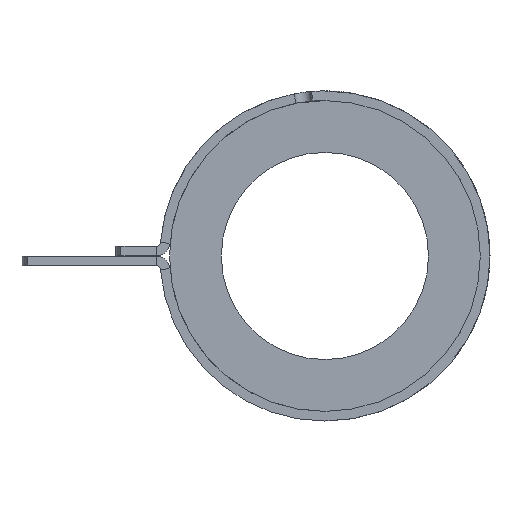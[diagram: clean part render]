
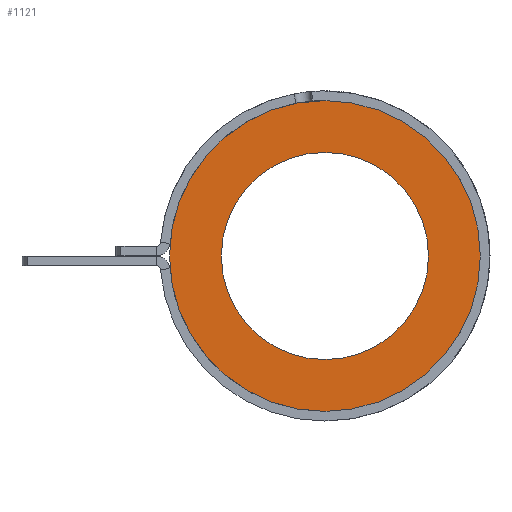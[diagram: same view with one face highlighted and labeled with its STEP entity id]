
A CAD part, left-side view. The second image highlights one B-rep face of the part: STEP entity #1121.
In plain terms, the highlighted planar face has unit normal (-1, 0, 0).
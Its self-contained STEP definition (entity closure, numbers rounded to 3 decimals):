
#261 = DIRECTION ( 'NONE',  ( 0., 0., -1. ) ) ;
#263 = CARTESIAN_POINT ( 'NONE',  ( -77.787, 0., 0. ) ) ;
#264 = DIRECTION ( 'NONE',  ( 1., 0., 0. ) ) ;
#265 = DIRECTION ( 'NONE',  ( 0., 0., -1. ) ) ;
#292 = VERTEX_POINT ( 'NONE', #636 ) ;
#323 = AXIS2_PLACEMENT_3D ( 'NONE', #1051, #1056, #1057 ) ;
#336 = EDGE_CURVE ( 'NONE', #1297, #292, #1234, .T. ) ;
#374 = EDGE_CURVE ( 'NONE', #1305, #1304, #1238, .T. ) ;
#378 = EDGE_CURVE ( 'NONE', #1304, #1305, #1245, .T. ) ;
#379 = EDGE_CURVE ( 'NONE', #292, #1297, #1246, .T. ) ;
#410 = AXIS2_PLACEMENT_3D ( 'NONE', #263, #264, #265 ) ;
#411 = AXIS2_PLACEMENT_3D ( 'NONE', #513, #514, #261 ) ;
#415 = AXIS2_PLACEMENT_3D ( 'NONE', #502, #503, #504 ) ;
#417 = AXIS2_PLACEMENT_3D ( 'NONE', #586, #587, #588 ) ;
#502 = CARTESIAN_POINT ( 'NONE',  ( -77.787, 0., 0. ) ) ;
#503 = DIRECTION ( 'NONE',  ( 1., 0., 0. ) ) ;
#504 = DIRECTION ( 'NONE',  ( 0., 0., -1. ) ) ;
#513 = CARTESIAN_POINT ( 'NONE',  ( -77.787, 0., 0. ) ) ;
#514 = DIRECTION ( 'NONE',  ( 1., 0., 0. ) ) ;
#586 = CARTESIAN_POINT ( 'NONE',  ( -77.787, 0., 0. ) ) ;
#587 = DIRECTION ( 'NONE',  ( 1., 0., 0. ) ) ;
#588 = DIRECTION ( 'NONE',  ( 0., 0., -1. ) ) ;
#636 = CARTESIAN_POINT ( 'NONE',  ( -77.787, 0., -9.525 ) ) ;
#921 = ORIENTED_EDGE ( 'NONE', *, *, #378, .F. ) ;
#922 = ORIENTED_EDGE ( 'NONE', *, *, #374, .F. ) ;
#923 = ORIENTED_EDGE ( 'NONE', *, *, #336, .T. ) ;
#924 = ORIENTED_EDGE ( 'NONE', *, *, #379, .T. ) ;
#973 = EDGE_LOOP ( 'NONE', ( #923, #924 ) ) ;
#974 = EDGE_LOOP ( 'NONE', ( #921, #922 ) ) ;
#1049 = PLANE ( 'NONE',  #323 ) ;
#1051 = CARTESIAN_POINT ( 'NONE',  ( -77.787, 0., 0. ) ) ;
#1056 = DIRECTION ( 'NONE',  ( 1., 0., 0. ) ) ;
#1057 = DIRECTION ( 'NONE',  ( 0., 0., -1. ) ) ;
#1070 = CARTESIAN_POINT ( 'NONE',  ( -77.787, 0., 9.525 ) ) ;
#1075 = CARTESIAN_POINT ( 'NONE',  ( -77.787, 0., 14.288 ) ) ;
#1076 = CARTESIAN_POINT ( 'NONE',  ( -77.787, 0., -14.288 ) ) ;
#1121 = ADVANCED_FACE ( 'NONE', ( #1223, #1231 ), #1049, .F. ) ;
#1223 = FACE_OUTER_BOUND ( 'NONE', #974, .T. ) ;
#1231 = FACE_BOUND ( 'NONE', #973, .T. ) ;
#1234 = CIRCLE ( 'NONE', #417, 9.525 ) ;
#1238 = CIRCLE ( 'NONE', #415, 14.288 ) ;
#1245 = CIRCLE ( 'NONE', #411, 14.288 ) ;
#1246 = CIRCLE ( 'NONE', #410, 9.525 ) ;
#1297 = VERTEX_POINT ( 'NONE', #1070 ) ;
#1304 = VERTEX_POINT ( 'NONE', #1075 ) ;
#1305 = VERTEX_POINT ( 'NONE', #1076 ) ;
